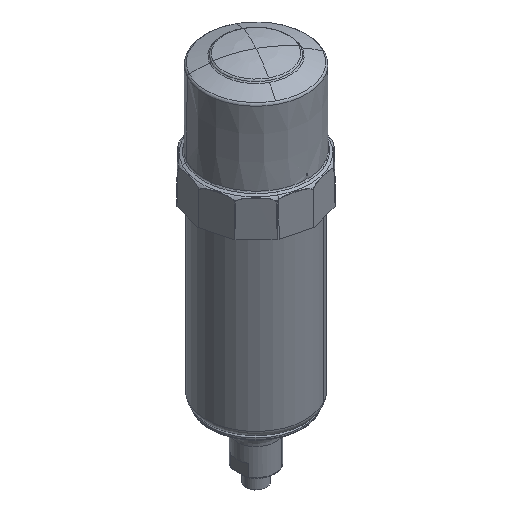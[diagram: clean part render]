
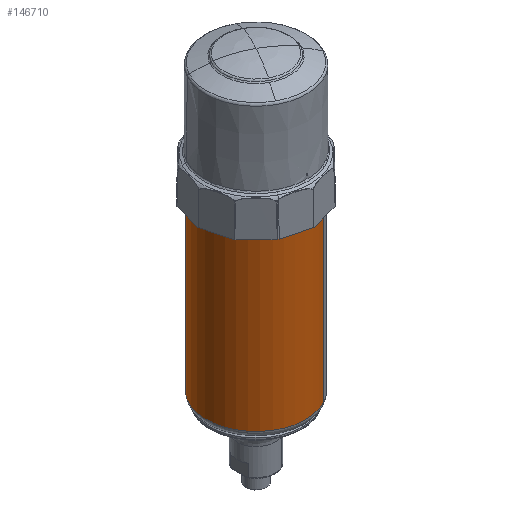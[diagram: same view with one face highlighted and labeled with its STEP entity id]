
A CAD part, isometric view. The second image highlights one B-rep face of the part: STEP entity #146710.
In plain terms, the highlighted cylindrical face has radius 31.525 mm (diameter 63.05 mm), a partial arc.
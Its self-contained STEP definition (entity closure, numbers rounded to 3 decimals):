
#146577=AXIS2_PLACEMENT_3D('Circle Axis2P3D',#146575,#146576,$) ;
#146697=AXIS2_PLACEMENT_3D('Cylinder Axis2P3D',#146694,#146695,#146696) ;
#146701=AXIS2_PLACEMENT_3D('Circle Axis2P3D',#146699,#146700,$) ;
#146541=CARTESIAN_POINT('Vertex',(-15.114,27.666,33.109)) ;
#146548=CARTESIAN_POINT('Vertex',(15.114,-27.666,33.109)) ;
#146575=CARTESIAN_POINT('Axis2P3D Location',(0.,0.,33.109)) ;
#146661=CARTESIAN_POINT('Line Origine',(15.114,-27.666,24.5)) ;
#146665=CARTESIAN_POINT('Vertex',(15.114,-27.666,140.)) ;
#146668=CARTESIAN_POINT('Line Origine',(-15.114,27.666,24.5)) ;
#146672=CARTESIAN_POINT('Vertex',(-15.114,27.666,140.)) ;
#146694=CARTESIAN_POINT('Axis2P3D Location',(0.,0.,24.5)) ;
#146699=CARTESIAN_POINT('Axis2P3D Location',(0.,0.,140.)) ;
#146576=DIRECTION('Axis2P3D Direction',(0.,0.,1.)) ;
#146662=DIRECTION('Vector Direction',(0.,0.,1.)) ;
#146669=DIRECTION('Vector Direction',(0.,0.,1.)) ;
#146695=DIRECTION('Axis2P3D Direction',(0.,0.,1.)) ;
#146696=DIRECTION('Axis2P3D XDirection',(-0.479,0.878,0.)) ;
#146700=DIRECTION('Axis2P3D Direction',(0.,0.,1.)) ;
#146663=VECTOR('Line Direction',#146662,1.) ;
#146670=VECTOR('Line Direction',#146669,1.) ;
#146705=ORIENTED_EDGE('',*,*,#146674,.F.) ;
#146706=ORIENTED_EDGE('',*,*,#146579,.T.) ;
#146707=ORIENTED_EDGE('',*,*,#146667,.T.) ;
#146708=ORIENTED_EDGE('',*,*,#146703,.F.) ;
#146710=ADVANCED_FACE('PartBody',(#146709),#146698,.T.) ;
#146578=CIRCLE('generated circle',#146577,31.525) ;
#146702=CIRCLE('generated circle',#146701,31.525) ;
#146698=CYLINDRICAL_SURFACE('generated cylinder',#146697,31.525) ;
#146579=EDGE_CURVE('',#146542,#146549,#146578,.T.) ;
#146667=EDGE_CURVE('',#146549,#146666,#146664,.T.) ;
#146674=EDGE_CURVE('',#146542,#146673,#146671,.T.) ;
#146703=EDGE_CURVE('',#146673,#146666,#146702,.T.) ;
#146704=EDGE_LOOP('',(#146705,#146706,#146707,#146708)) ;
#146709=FACE_OUTER_BOUND('',#146704,.T.) ;
#146664=LINE('Line',#146661,#146663) ;
#146671=LINE('Line',#146668,#146670) ;
#146542=VERTEX_POINT('',#146541) ;
#146549=VERTEX_POINT('',#146548) ;
#146666=VERTEX_POINT('',#146665) ;
#146673=VERTEX_POINT('',#146672) ;
